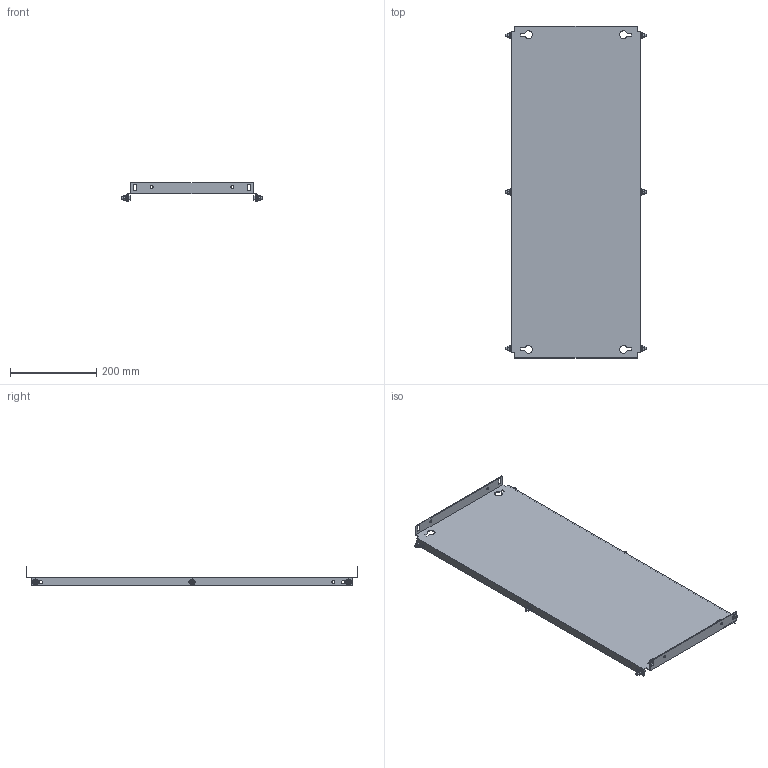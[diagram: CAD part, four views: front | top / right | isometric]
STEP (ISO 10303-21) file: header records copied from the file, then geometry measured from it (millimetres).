
FILE_DESCRIPTION(('Open CASCADE Model'),'2;1');
FILE_NAME('Open CASCADE Shape Model','2025-02-20T13:24:49',('Author'),( 'Open CASCADE'),'Open CASCADE STEP processor 7.8','Open CASCADE 7.8' ,'Unknown');
FILE_SCHEMA(('AUTOMOTIVE_DESIGN { 1 0 10303 214 1 1 1 1 }'));
Length unit declared in the file: millimetre
Products named in the file (4): Compound1; Solid1; Solid2; Solid3
Assembly tree (13 placements, depth 2):
  Compound1
    Solid1
    Solid2  x6
    Solid3  x6
Bounding box: 328 x 769 x 43 mm (x, y, z)
Volume: 543580.6 mm3; surface area: 548373.3 mm2
Topology: 13 solids, 13 shells, 422 faces, 1010 edges, 620 vertices
Faces by surface type: plane 192, cone 102, bspline 72, cylinder 38, torus 18
Full cylindrical faces by diameter (mm): 5 x6, 6 x12, 7 x16
Entity records: 5048 total; most frequent: CARTESIAN_POINT 1397, ORIENTED_EDGE 770, DIRECTION 664, EDGE_CURVE 385, VERTEX_POINT 250, AXIS2_PLACEMENT_3D 224, LINE 216, VECTOR 216
